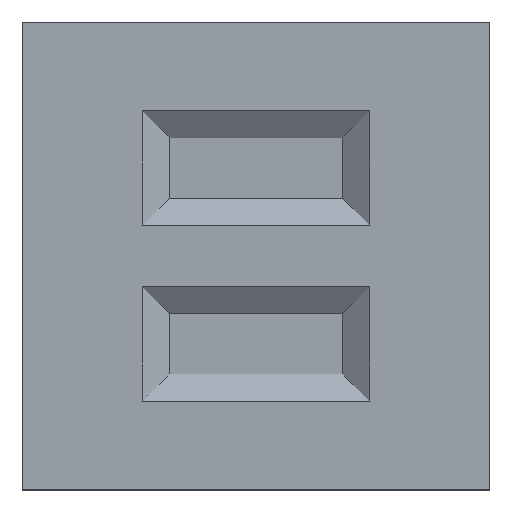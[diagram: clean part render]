
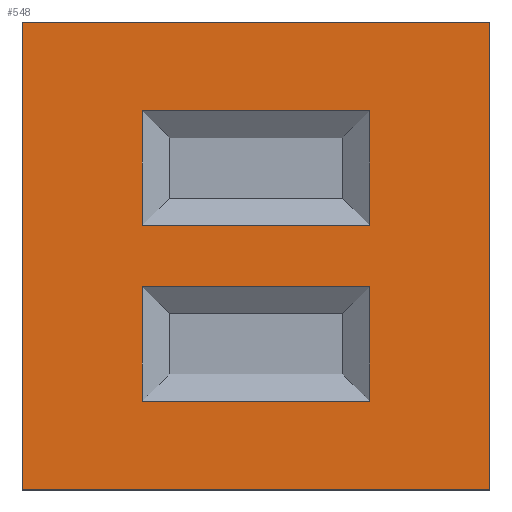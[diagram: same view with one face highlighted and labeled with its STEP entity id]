
A CAD part, top view. The second image highlights one B-rep face of the part: STEP entity #548.
In plain terms, the highlighted planar face has unit normal (0, 0, 1).
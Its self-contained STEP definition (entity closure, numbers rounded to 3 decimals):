
#295=CARTESIAN_POINT('',(4.01,4.375,0.31));
#296=VERTEX_POINT('',#295);
#297=CARTESIAN_POINT('',(1.39,4.375,0.31));
#298=VERTEX_POINT('',#297);
#299=CARTESIAN_POINT('',(4.01,4.375,0.31));
#300=DIRECTION('',(-1.,-0.,0.));
#301=VECTOR('',#300,2.62);
#302=LINE('',#299,#301);
#303=EDGE_CURVE('',#296,#298,#302,.T.);
#335=CARTESIAN_POINT('',(1.39,3.055,0.31));
#336=VERTEX_POINT('',#335);
#337=CARTESIAN_POINT('',(1.39,4.375,0.31));
#338=DIRECTION('',(-0.,-1.,-0.));
#339=VECTOR('',#338,1.32);
#340=LINE('',#337,#339);
#341=EDGE_CURVE('',#298,#336,#340,.T.);
#374=CARTESIAN_POINT('',(4.01,3.055,0.31));
#375=VERTEX_POINT('',#374);
#382=CARTESIAN_POINT('',(4.01,3.055,0.31));
#383=DIRECTION('',(0.,1.,0.));
#384=VECTOR('',#383,1.32);
#385=LINE('',#382,#384);
#386=EDGE_CURVE('',#375,#296,#385,.T.);
#397=CARTESIAN_POINT('',(1.39,3.055,0.31));
#398=DIRECTION('',(1.,0.,-0.));
#399=VECTOR('',#398,2.62);
#400=LINE('',#397,#399);
#401=EDGE_CURVE('',#336,#375,#400,.T.);
#469=CARTESIAN_POINT('',(2.7,2.7,0.31));
#470=DIRECTION('',(0.,0.,1.));
#471=DIRECTION('',(1.,0.,0.));
#472=AXIS2_PLACEMENT_3D('',#469,#470,#471);
#473=PLANE('',#472);
#474=CARTESIAN_POINT('',(0.,5.4,0.31));
#475=VERTEX_POINT('',#474);
#476=CARTESIAN_POINT('',(0.,0.,0.31));
#477=VERTEX_POINT('',#476);
#478=CARTESIAN_POINT('',(0.,5.4,0.31));
#479=DIRECTION('',(-0.,-1.,-0.));
#480=VECTOR('',#479,5.4);
#481=LINE('',#478,#480);
#482=EDGE_CURVE('',#475,#477,#481,.T.);
#483=ORIENTED_EDGE('',*,*,#482,.T.);
#484=CARTESIAN_POINT('',(5.4,0.,0.31));
#485=VERTEX_POINT('',#484);
#486=CARTESIAN_POINT('',(0.,0.,0.31));
#487=DIRECTION('',(1.,0.,-0.));
#488=VECTOR('',#487,5.4);
#489=LINE('',#486,#488);
#490=EDGE_CURVE('',#477,#485,#489,.T.);
#491=ORIENTED_EDGE('',*,*,#490,.T.);
#492=CARTESIAN_POINT('',(5.4,5.4,0.31));
#493=VERTEX_POINT('',#492);
#494=CARTESIAN_POINT('',(5.4,0.,0.31));
#495=DIRECTION('',(0.,1.,0.));
#496=VECTOR('',#495,5.4);
#497=LINE('',#494,#496);
#498=EDGE_CURVE('',#485,#493,#497,.T.);
#499=ORIENTED_EDGE('',*,*,#498,.T.);
#500=CARTESIAN_POINT('',(5.4,5.4,0.31));
#501=DIRECTION('',(-1.,-0.,0.));
#502=VECTOR('',#501,5.4);
#503=LINE('',#500,#502);
#504=EDGE_CURVE('',#493,#475,#503,.T.);
#505=ORIENTED_EDGE('',*,*,#504,.T.);
#506=EDGE_LOOP('',(#483,#491,#499,#505));
#507=FACE_BOUND('',#506,.T.);
#508=CARTESIAN_POINT('',(4.01,1.025,0.31));
#509=VERTEX_POINT('',#508);
#510=CARTESIAN_POINT('',(4.01,2.345,0.31));
#511=VERTEX_POINT('',#510);
#512=CARTESIAN_POINT('',(4.01,1.025,0.31));
#513=DIRECTION('',(0.,1.,0.));
#514=VECTOR('',#513,1.32);
#515=LINE('',#512,#514);
#516=EDGE_CURVE('',#509,#511,#515,.T.);
#517=ORIENTED_EDGE('',*,*,#516,.F.);
#518=CARTESIAN_POINT('',(1.39,1.025,0.31));
#519=VERTEX_POINT('',#518);
#520=CARTESIAN_POINT('',(1.39,1.025,0.31));
#521=DIRECTION('',(1.,-0.,-0.));
#522=VECTOR('',#521,2.62);
#523=LINE('',#520,#522);
#524=EDGE_CURVE('',#519,#509,#523,.T.);
#525=ORIENTED_EDGE('',*,*,#524,.F.);
#526=CARTESIAN_POINT('',(1.39,2.345,0.31));
#527=VERTEX_POINT('',#526);
#528=CARTESIAN_POINT('',(1.39,2.345,0.31));
#529=DIRECTION('',(-0.,-1.,-0.));
#530=VECTOR('',#529,1.32);
#531=LINE('',#528,#530);
#532=EDGE_CURVE('',#527,#519,#531,.T.);
#533=ORIENTED_EDGE('',*,*,#532,.F.);
#534=CARTESIAN_POINT('',(4.01,2.345,0.31));
#535=DIRECTION('',(-1.,-0.,0.));
#536=VECTOR('',#535,2.62);
#537=LINE('',#534,#536);
#538=EDGE_CURVE('',#511,#527,#537,.T.);
#539=ORIENTED_EDGE('',*,*,#538,.F.);
#540=EDGE_LOOP('',(#517,#525,#533,#539));
#541=FACE_BOUND('',#540,.T.);
#542=ORIENTED_EDGE('',*,*,#303,.F.);
#543=ORIENTED_EDGE('',*,*,#386,.F.);
#544=ORIENTED_EDGE('',*,*,#401,.F.);
#545=ORIENTED_EDGE('',*,*,#341,.F.);
#546=EDGE_LOOP('',(#542,#543,#544,#545));
#547=FACE_BOUND('',#546,.T.);
#548=ADVANCED_FACE('',(#507,#541,#547),#473,.T.);
